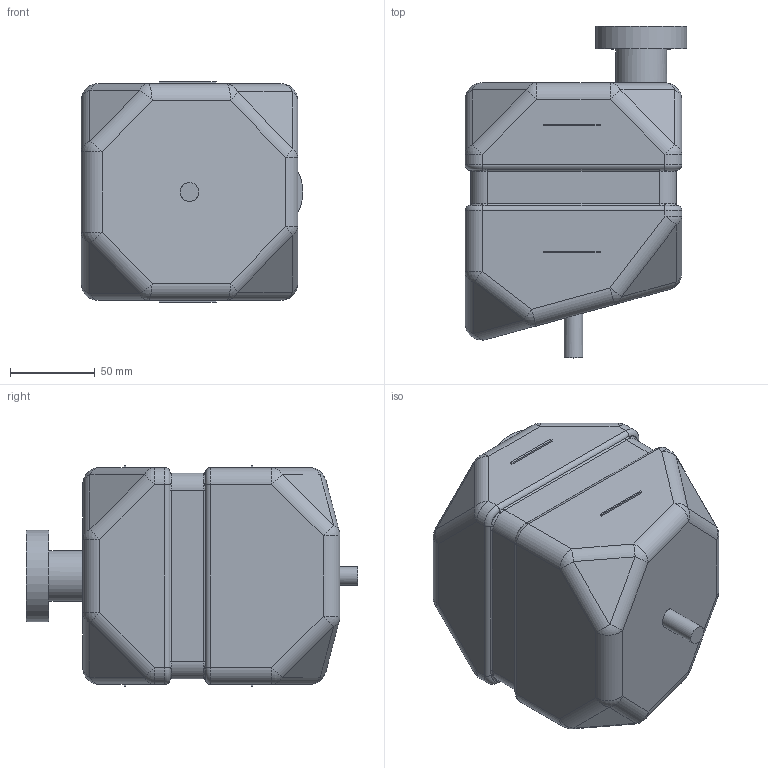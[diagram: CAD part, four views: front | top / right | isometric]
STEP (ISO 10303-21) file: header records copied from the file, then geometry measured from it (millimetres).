
FILE_DESCRIPTION (( 'STEP AP203' ), '1' );
FILE_NAME ('RESERVOIR TANK 60.06167-6004.STEP', '2022-09-29T12:24:27', ( '' ), ( '' ), 'SwSTEP 2.0', 'SolidWorks 2019', '' );
FILE_SCHEMA (( 'CONFIG_CONTROL_DESIGN' ));
Length unit declared in the file: millimetre
Products named in the file (1): RESERVOIR TANK 60.06167-6004
Bounding box: 131 x 196 x 130 mm (x, y, z)
Volume: 2127127.4 mm3; surface area: 99336.5 mm2
Topology: 1 solids, 1 shells, 190 faces, 421 edges, 229 vertices
Faces by surface type: cylinder 64, plane 53, bspline 33, sphere 24, torus 16
Full cylindrical faces by diameter (mm): 11 x1, 30 x1, 54 x1
Entity records: 5559 total; most frequent: CARTESIAN_POINT 1567, DIRECTION 830, ORIENTED_EDGE 808, EDGE_CURVE 404, AXIS2_PLACEMENT_3D 334, VERTEX_POINT 225, EDGE_LOOP 199, FACE_OUTER_BOUND 193
